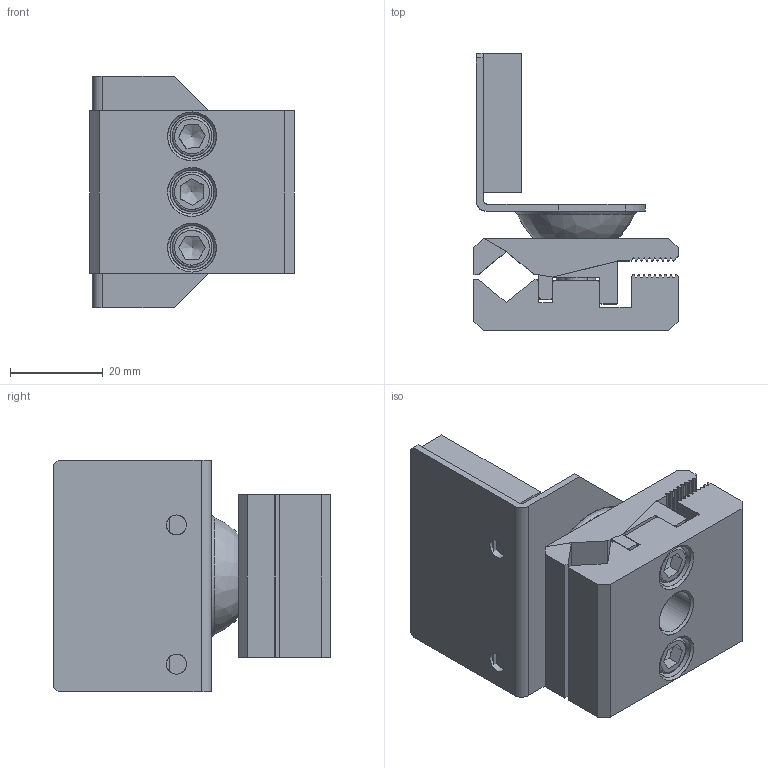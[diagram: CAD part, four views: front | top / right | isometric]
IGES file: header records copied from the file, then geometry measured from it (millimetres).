
Global section: file name: H:\lem\3DCAD_BTU934M_VKT_L_90.igs; native system: NX V11.0; preprocessor: SIEMENS PLM Software NX 11.0; date: 20200525.120310; units: millimetre
Bounding box: 44 x 59.7 x 50 mm (x, y, z)
Surface area: 24581.8 mm2 (no closed solid volume)
Topology: 0 solids, 0 shells, 518 faces, 3336 edges, 3284 vertices
Faces by surface type: bspline 518
